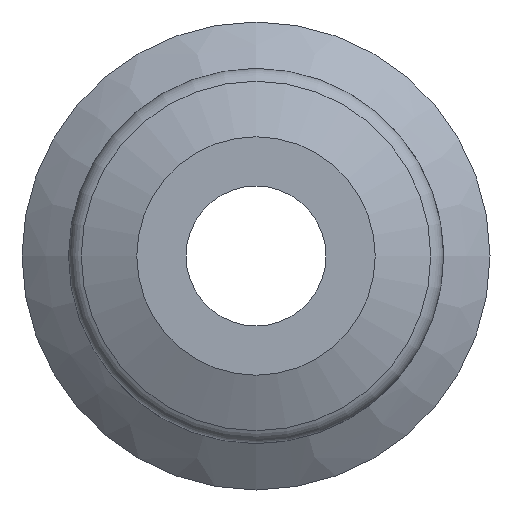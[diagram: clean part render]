
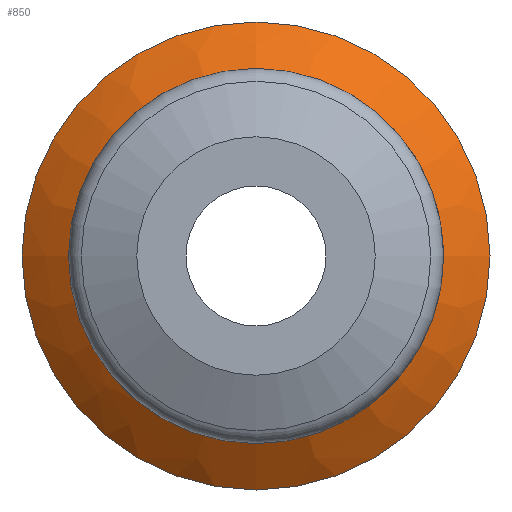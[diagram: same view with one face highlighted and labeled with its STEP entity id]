
A CAD part, left-side view. The second image highlights one B-rep face of the part: STEP entity #850.
In plain terms, the highlighted free-form (B-spline) face has degree [3, 3] with [4, 7] control points.
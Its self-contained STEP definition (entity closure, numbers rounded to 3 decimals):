
#138 = ORIENTED_EDGE ( 'NONE', *, *, #1304, .F. ) ;
#346 = CARTESIAN_POINT ( 'NONE',  ( -2.145, -45.797, 22.899 ) ) ;
#359 = DIRECTION ( 'NONE',  ( 1., 0., 0. ) ) ;
#411 = CARTESIAN_POINT ( 'NONE',  ( -5.756, 0., -17.368 ) ) ;
#691 = CARTESIAN_POINT ( 'NONE',  ( 0., 0., -25.413 ) ) ;
#796 = FACE_OUTER_BOUND ( 'NONE', #905, .T. ) ;
#833 = CARTESIAN_POINT ( 'NONE',  ( -5.756, 34.737, -17.368 ) ) ;
#850 = ADVANCED_FACE ( 'NONE', ( #2911, #796 ), #5959, .T. ) ;
#853 = CARTESIAN_POINT ( 'NONE',  ( 0., 0., 0. ) ) ;
#905 = EDGE_LOOP ( 'NONE', ( #138 ) ) ;
#922 = DIRECTION ( 'NONE',  ( 0., 0., -1. ) ) ;
#971 = CARTESIAN_POINT ( 'NONE',  ( -2.145, 45.797, -22.899 ) ) ;
#1304 = EDGE_CURVE ( 'NONE', #4131, #4131, #4218, .T. ) ;
#1369 = CARTESIAN_POINT ( 'NONE',  ( 0., -50.826, -25.413 ) ) ;
#1385 = CARTESIAN_POINT ( 'NONE',  ( -5.756, 0., 0. ) ) ;
#1416 = DIRECTION ( 'NONE',  ( 0., 0., -1. ) ) ;
#1433 = CARTESIAN_POINT ( 'NONE',  ( -4.069, 0., -20.21 ) ) ;
#1750 = CARTESIAN_POINT ( 'NONE',  ( 0., 50.826, 25.413 ) ) ;
#1886 = ORIENTED_EDGE ( 'NONE', *, *, #3553, .T. ) ;
#1933 = CARTESIAN_POINT ( 'NONE',  ( -4.069, 40.421, 20.21 ) ) ;
#2036 = CARTESIAN_POINT ( 'NONE',  ( -4.069, 0., 20.21 ) ) ;
#2324 = CIRCLE ( 'NONE', #4005, 17.368 ) ;
#2416 = CARTESIAN_POINT ( 'NONE',  ( 0., 0., -25.413 ) ) ;
#2435 = AXIS2_PLACEMENT_3D ( 'NONE', #853, #5191, #922 ) ;
#2487 = CARTESIAN_POINT ( 'NONE',  ( -4.069, -40.421, 20.21 ) ) ;
#2911 = FACE_OUTER_BOUND ( 'NONE', #3754, .T. ) ;
#3045 = CARTESIAN_POINT ( 'NONE',  ( -2.145, -45.797, -22.899 ) ) ;
#3540 = CARTESIAN_POINT ( 'NONE',  ( -2.145, 0., 22.899 ) ) ;
#3553 = EDGE_CURVE ( 'NONE', #6289, #6289, #2324, .T. ) ;
#3754 = EDGE_LOOP ( 'NONE', ( #1886 ) ) ;
#4005 = AXIS2_PLACEMENT_3D ( 'NONE', #1385, #359, #1416 ) ;
#4063 = CARTESIAN_POINT ( 'NONE',  ( -2.145, 0., -22.899 ) ) ;
#4129 = CARTESIAN_POINT ( 'NONE',  ( -2.145, 0., -22.899 ) ) ;
#4131 = VERTEX_POINT ( 'NONE', #4509 ) ;
#4218 = CIRCLE ( 'NONE', #2435, 25.413 ) ;
#4509 = CARTESIAN_POINT ( 'NONE',  ( 0., 0., -25.413 ) ) ;
#4541 = CARTESIAN_POINT ( 'NONE',  ( 0., 50.826, -25.413 ) ) ;
#4584 = CARTESIAN_POINT ( 'NONE',  ( -4.069, 0., -20.21 ) ) ;
#4683 = CARTESIAN_POINT ( 'NONE',  ( -5.756, 0., -17.368 ) ) ;
#5139 = CARTESIAN_POINT ( 'NONE',  ( -5.756, 34.737, 17.368 ) ) ;
#5171 = CARTESIAN_POINT ( 'NONE',  ( -5.756, 0., -17.368 ) ) ;
#5191 = DIRECTION ( 'NONE',  ( 1., 0., 0. ) ) ;
#5205 = CARTESIAN_POINT ( 'NONE',  ( -4.069, -40.421, -20.21 ) ) ;
#5699 = CARTESIAN_POINT ( 'NONE',  ( -5.756, -34.737, 17.368 ) ) ;
#5731 = CARTESIAN_POINT ( 'NONE',  ( -2.145, 45.797, 22.899 ) ) ;
#5959 =( BOUNDED_SURFACE ( )  B_SPLINE_SURFACE ( 3, 3, ( 
 ( #2416, #4541, #1750, #6672, #6152, #1369, #691 ),
 ( #4063, #971, #5731, #3540, #346, #3045, #4129 ),
 ( #4584, #6220, #1933, #2036, #2487, #5205, #1433 ),
 ( #411, #833, #5139, #6853, #5699, #6715, #5171 ) ),
 .UNSPECIFIED., .F., .T., .T. ) 
 B_SPLINE_SURFACE_WITH_KNOTS ( ( 4, 4 ),
 ( 4, 3, 4 ),
 ( 0., 1. ),
 ( 0., 0.5, 1. ),
 .UNSPECIFIED. ) 
 GEOMETRIC_REPRESENTATION_ITEM ( )  RATIONAL_B_SPLINE_SURFACE ( (
 ( 1., 0.333, 0.333, 1., 0.333, 0.333, 1.),
 ( 0.998, 0.333, 0.333, 0.998, 0.333, 0.333, 0.998),
 ( 0.998, 0.333, 0.333, 0.998, 0.333, 0.333, 0.998),
 ( 1., 0.333, 0.333, 1., 0.333, 0.333, 1.) ) ) 
 REPRESENTATION_ITEM ( '' )  SURFACE ( )  );
#6152 = CARTESIAN_POINT ( 'NONE',  ( 0., -50.826, 25.413 ) ) ;
#6220 = CARTESIAN_POINT ( 'NONE',  ( -4.069, 40.421, -20.21 ) ) ;
#6289 = VERTEX_POINT ( 'NONE', #4683 ) ;
#6672 = CARTESIAN_POINT ( 'NONE',  ( 0., 0., 25.413 ) ) ;
#6715 = CARTESIAN_POINT ( 'NONE',  ( -5.756, -34.737, -17.368 ) ) ;
#6853 = CARTESIAN_POINT ( 'NONE',  ( -5.756, 0., 17.368 ) ) ;
